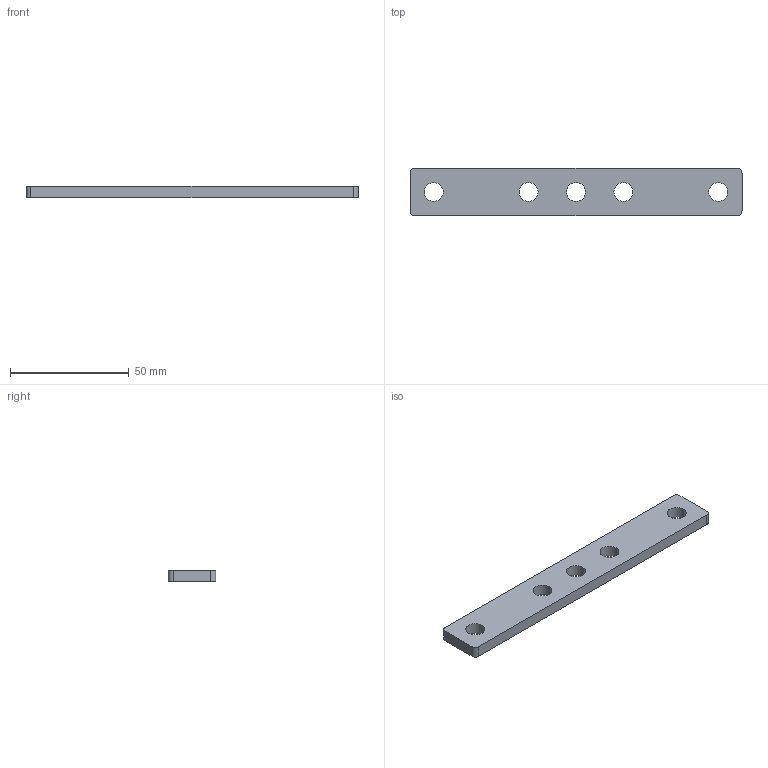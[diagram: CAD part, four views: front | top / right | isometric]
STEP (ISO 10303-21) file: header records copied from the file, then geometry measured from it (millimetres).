
FILE_DESCRIPTION (( 'STEP AP214' ), '1' );
FILE_NAME ('FACS 20x140.step', '2017-04-05T07:36:34', ( '' ), ( '' ), 'SwSTEP 2.0', 'SolidWorks 2015', '' );
FILE_SCHEMA (( 'AUTOMOTIVE_DESIGN' ));
Length unit declared in the file: millimetre
Products named in the file (1): FACS 20x140
Bounding box: 140 x 20 x 5 mm (x, y, z)
Volume: 12726.2 mm3; surface area: 7301.6 mm2
Topology: 1 solids, 1 shells, 20 faces, 54 edges, 36 vertices
Faces by surface type: cylinder 14, plane 6
Entity records: 700 total; most frequent: DIRECTION 124, CARTESIAN_POINT 111, ORIENTED_EDGE 108, EDGE_CURVE 54, AXIS2_PLACEMENT_3D 49, VERTEX_POINT 36, EDGE_LOOP 30, CIRCLE 28
